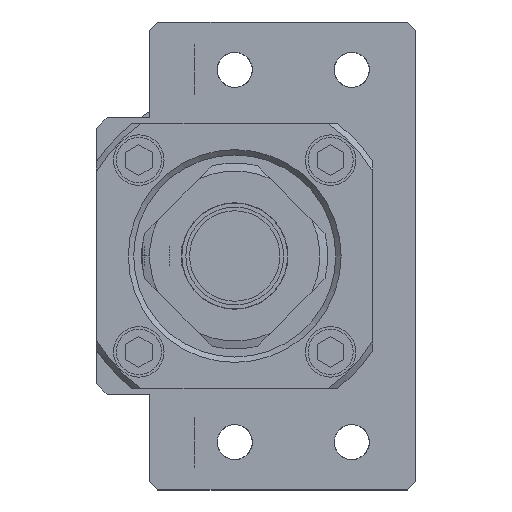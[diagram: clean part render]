
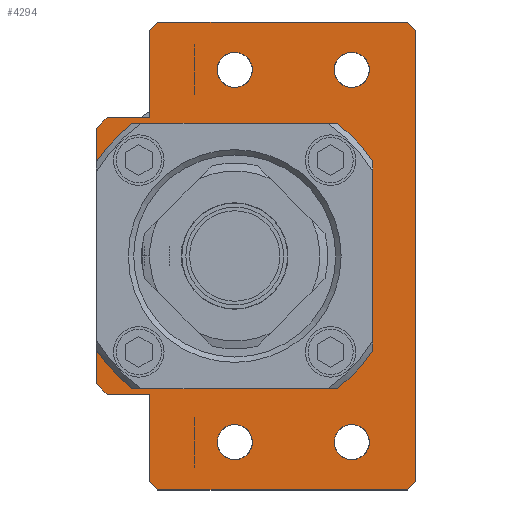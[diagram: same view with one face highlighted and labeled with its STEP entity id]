
A CAD part, left-side view. The second image highlights one B-rep face of the part: STEP entity #4294.
In plain terms, the highlighted planar face has unit normal (-1, 0, 0) as drawn and (0, 0, 1) by its records, which use the part's own axes.
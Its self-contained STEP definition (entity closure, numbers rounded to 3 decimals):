
#230=FACE_BOUND('',#814,.T.);
#231=FACE_BOUND('',#815,.T.);
#232=FACE_BOUND('',#816,.T.);
#233=FACE_BOUND('',#817,.T.);
#234=FACE_BOUND('',#818,.T.);
#363=PLANE('',#4718);
#531=FACE_OUTER_BOUND('',#813,.T.);
#813=EDGE_LOOP('',(#3326,#3327,#3328,#3329,#3330,#3331,#3332,#3333,#3334,
#3335,#3336,#3337,#3338,#3339));
#814=EDGE_LOOP('',(#3340));
#815=EDGE_LOOP('',(#3341));
#816=EDGE_LOOP('',(#3342));
#817=EDGE_LOOP('',(#3343));
#818=EDGE_LOOP('',(#3344,#3345,#3346,#3347,#3348,#3349,#3350,#3351));
#1065=LINE('',#6987,#1386);
#1129=LINE('',#7358,#1450);
#1132=LINE('',#7363,#1453);
#1134=LINE('',#7367,#1455);
#1136=LINE('',#7371,#1457);
#1138=LINE('',#7375,#1459);
#1140=LINE('',#7379,#1461);
#1142=LINE('',#7384,#1463);
#1145=LINE('',#7389,#1466);
#1147=LINE('',#7392,#1468);
#1148=LINE('',#7395,#1469);
#1150=LINE('',#7399,#1471);
#1152=LINE('',#7402,#1473);
#1153=LINE('',#7403,#1474);
#1154=LINE('',#7408,#1475);
#1155=LINE('',#7412,#1476);
#1156=LINE('',#7416,#1477);
#1157=LINE('',#7419,#1478);
#1386=VECTOR('',#5146,1000.);
#1450=VECTOR('',#5386,1000.);
#1453=VECTOR('',#5391,1000.);
#1455=VECTOR('',#5395,1000.);
#1457=VECTOR('',#5399,1000.);
#1459=VECTOR('',#5403,1000.);
#1461=VECTOR('',#5407,1000.);
#1463=VECTOR('',#5411,1000.);
#1466=VECTOR('',#5416,1000.);
#1468=VECTOR('',#5420,1000.);
#1469=VECTOR('',#5423,1000.);
#1471=VECTOR('',#5427,1000.);
#1473=VECTOR('',#5431,1000.);
#1474=VECTOR('',#5432,1000.);
#1475=VECTOR('',#5435,1000.);
#1476=VECTOR('',#5438,1000.);
#1477=VECTOR('',#5441,1000.);
#1478=VECTOR('',#5444,1000.);
#1701=CIRCLE('',#4601,3.3);
#1703=CIRCLE('',#4606,3.3);
#1705=CIRCLE('',#4611,3.3);
#1707=CIRCLE('',#4616,3.3);
#1762=CIRCLE('',#4719,30.5);
#1763=CIRCLE('',#4720,30.5);
#1764=CIRCLE('',#4721,30.5);
#1765=CIRCLE('',#4722,30.5);
#1891=VERTEX_POINT('',#6373);
#1905=VERTEX_POINT('',#6547);
#1919=VERTEX_POINT('',#6721);
#1933=VERTEX_POINT('',#6895);
#1941=VERTEX_POINT('',#6985);
#1942=VERTEX_POINT('',#6986);
#2044=VERTEX_POINT('',#7356);
#2045=VERTEX_POINT('',#7357);
#2046=VERTEX_POINT('',#7362);
#2047=VERTEX_POINT('',#7366);
#2048=VERTEX_POINT('',#7370);
#2049=VERTEX_POINT('',#7374);
#2050=VERTEX_POINT('',#7378);
#2051=VERTEX_POINT('',#7382);
#2052=VERTEX_POINT('',#7383);
#2053=VERTEX_POINT('',#7388);
#2054=VERTEX_POINT('',#7394);
#2055=VERTEX_POINT('',#7398);
#2056=VERTEX_POINT('',#7404);
#2057=VERTEX_POINT('',#7405);
#2058=VERTEX_POINT('',#7407);
#2059=VERTEX_POINT('',#7409);
#2060=VERTEX_POINT('',#7411);
#2061=VERTEX_POINT('',#7413);
#2062=VERTEX_POINT('',#7415);
#2063=VERTEX_POINT('',#7417);
#2315=EDGE_CURVE('',#1891,#1891,#1701,.T.);
#2332=EDGE_CURVE('',#1905,#1905,#1703,.T.);
#2349=EDGE_CURVE('',#1919,#1919,#1705,.T.);
#2366=EDGE_CURVE('',#1933,#1933,#1707,.T.);
#2376=EDGE_CURVE('',#1941,#1942,#1065,.T.);
#2519=EDGE_CURVE('',#2044,#2045,#1129,.T.);
#2522=EDGE_CURVE('',#2045,#2046,#1132,.T.);
#2524=EDGE_CURVE('',#2046,#2047,#1134,.T.);
#2526=EDGE_CURVE('',#2047,#2048,#1136,.T.);
#2528=EDGE_CURVE('',#2048,#2049,#1138,.T.);
#2530=EDGE_CURVE('',#2049,#2050,#1140,.T.);
#2532=EDGE_CURVE('',#2051,#2052,#1142,.T.);
#2535=EDGE_CURVE('',#2052,#2053,#1145,.T.);
#2537=EDGE_CURVE('',#2053,#2044,#1147,.T.);
#2538=EDGE_CURVE('',#2050,#2054,#1148,.T.);
#2540=EDGE_CURVE('',#2055,#2051,#1150,.T.);
#2542=EDGE_CURVE('',#1941,#2055,#1152,.T.);
#2543=EDGE_CURVE('',#2054,#1942,#1153,.T.);
#2544=EDGE_CURVE('',#2056,#2057,#1762,.T.);
#2545=EDGE_CURVE('',#2058,#2057,#1154,.T.);
#2546=EDGE_CURVE('',#2058,#2059,#1763,.T.);
#2547=EDGE_CURVE('',#2060,#2059,#1155,.T.);
#2548=EDGE_CURVE('',#2060,#2061,#1764,.T.);
#2549=EDGE_CURVE('',#2062,#2061,#1156,.T.);
#2550=EDGE_CURVE('',#2062,#2063,#1765,.T.);
#2551=EDGE_CURVE('',#2056,#2063,#1157,.T.);
#3326=ORIENTED_EDGE('',*,*,#2542,.T.);
#3327=ORIENTED_EDGE('',*,*,#2540,.T.);
#3328=ORIENTED_EDGE('',*,*,#2532,.T.);
#3329=ORIENTED_EDGE('',*,*,#2535,.T.);
#3330=ORIENTED_EDGE('',*,*,#2537,.T.);
#3331=ORIENTED_EDGE('',*,*,#2519,.T.);
#3332=ORIENTED_EDGE('',*,*,#2522,.T.);
#3333=ORIENTED_EDGE('',*,*,#2524,.T.);
#3334=ORIENTED_EDGE('',*,*,#2526,.T.);
#3335=ORIENTED_EDGE('',*,*,#2528,.T.);
#3336=ORIENTED_EDGE('',*,*,#2530,.T.);
#3337=ORIENTED_EDGE('',*,*,#2538,.T.);
#3338=ORIENTED_EDGE('',*,*,#2543,.T.);
#3339=ORIENTED_EDGE('',*,*,#2376,.F.);
#3340=ORIENTED_EDGE('',*,*,#2315,.T.);
#3341=ORIENTED_EDGE('',*,*,#2332,.T.);
#3342=ORIENTED_EDGE('',*,*,#2349,.T.);
#3343=ORIENTED_EDGE('',*,*,#2366,.T.);
#3344=ORIENTED_EDGE('',*,*,#2544,.T.);
#3345=ORIENTED_EDGE('',*,*,#2545,.F.);
#3346=ORIENTED_EDGE('',*,*,#2546,.T.);
#3347=ORIENTED_EDGE('',*,*,#2547,.F.);
#3348=ORIENTED_EDGE('',*,*,#2548,.T.);
#3349=ORIENTED_EDGE('',*,*,#2549,.F.);
#3350=ORIENTED_EDGE('',*,*,#2550,.T.);
#3351=ORIENTED_EDGE('',*,*,#2551,.F.);
#4294=ADVANCED_FACE('',(#531,#230,#231,#232,#233,#234),#363,.T.);
#4601=AXIS2_PLACEMENT_3D('',#6374,#5097,#5098);
#4606=AXIS2_PLACEMENT_3D('',#6548,#5110,#5111);
#4611=AXIS2_PLACEMENT_3D('',#6722,#5123,#5124);
#4616=AXIS2_PLACEMENT_3D('',#6896,#5136,#5137);
#4718=AXIS2_PLACEMENT_3D('',#7401,#5429,#5430);
#4719=AXIS2_PLACEMENT_3D('',#7406,#5433,#5434);
#4720=AXIS2_PLACEMENT_3D('',#7410,#5436,#5437);
#4721=AXIS2_PLACEMENT_3D('',#7414,#5439,#5440);
#4722=AXIS2_PLACEMENT_3D('',#7418,#5442,#5443);
#5097=DIRECTION('center_axis',(0.,0.,-1.));
#5098=DIRECTION('ref_axis',(1.,0.,0.));
#5110=DIRECTION('center_axis',(0.,0.,-1.));
#5111=DIRECTION('ref_axis',(1.,0.,0.));
#5123=DIRECTION('center_axis',(0.,0.,-1.));
#5124=DIRECTION('ref_axis',(1.,0.,0.));
#5136=DIRECTION('center_axis',(0.,0.,-1.));
#5137=DIRECTION('ref_axis',(1.,0.,0.));
#5146=DIRECTION('',(1.,0.,0.));
#5386=DIRECTION('',(0.707,-0.707,0.));
#5391=DIRECTION('',(1.,0.,0.));
#5395=DIRECTION('',(0.707,0.707,0.));
#5399=DIRECTION('',(0.,1.,0.));
#5403=DIRECTION('',(-0.707,0.707,0.));
#5407=DIRECTION('',(-1.,0.,0.));
#5411=DIRECTION('',(-1.,0.,0.));
#5416=DIRECTION('',(-0.707,-0.707,0.));
#5420=DIRECTION('',(0.,-1.,0.));
#5423=DIRECTION('',(0.,1.,0.));
#5427=DIRECTION('',(0.,-1.,0.));
#5429=DIRECTION('center_axis',(0.,0.,1.));
#5430=DIRECTION('ref_axis',(1.,0.,0.));
#5431=DIRECTION('',(-0.707,-0.707,0.));
#5432=DIRECTION('',(-0.707,0.707,0.));
#5433=DIRECTION('center_axis',(0.,0.,-1.));
#5434=DIRECTION('ref_axis',(-1.,0.,0.));
#5435=DIRECTION('',(-1.,0.,0.));
#5436=DIRECTION('center_axis',(0.,0.,-1.));
#5437=DIRECTION('ref_axis',(-1.,0.,0.));
#5438=DIRECTION('',(0.,1.,0.));
#5439=DIRECTION('center_axis',(0.,0.,-1.));
#5440=DIRECTION('ref_axis',(-1.,0.,0.));
#5441=DIRECTION('',(1.,0.,0.));
#5442=DIRECTION('center_axis',(0.,0.,-1.));
#5443=DIRECTION('ref_axis',(-1.,0.,0.));
#5444=DIRECTION('',(0.,-1.,0.));
#6373=CARTESIAN_POINT('',(-38.3,0.,0.));
#6374=CARTESIAN_POINT('Origin',(-35.,0.,0.));
#6547=CARTESIAN_POINT('',(31.7,0.,0.));
#6548=CARTESIAN_POINT('Origin',(35.,0.,0.));
#6721=CARTESIAN_POINT('',(-38.3,-22.,0.));
#6722=CARTESIAN_POINT('Origin',(-35.,-22.,0.));
#6895=CARTESIAN_POINT('',(31.7,-22.,0.));
#6896=CARTESIAN_POINT('Origin',(35.,-22.,0.));
#6985=CARTESIAN_POINT('',(-24.,26.,0.));
#6986=CARTESIAN_POINT('',(24.,26.,0.));
#6987=CARTESIAN_POINT('',(24.,26.,0.));
#7356=CARTESIAN_POINT('',(-44.,-32.44,0.));
#7357=CARTESIAN_POINT('',(-42.44,-34.,0.));
#7358=CARTESIAN_POINT('',(-44.,-32.44,0.));
#7362=CARTESIAN_POINT('',(42.44,-34.,0.));
#7363=CARTESIAN_POINT('',(-42.44,-34.,0.));
#7366=CARTESIAN_POINT('',(44.,-32.44,0.));
#7367=CARTESIAN_POINT('',(42.44,-34.,0.));
#7370=CARTESIAN_POINT('',(44.,14.44,0.));
#7371=CARTESIAN_POINT('',(44.,-32.44,0.));
#7374=CARTESIAN_POINT('',(42.44,16.,0.));
#7375=CARTESIAN_POINT('',(44.,14.44,0.));
#7378=CARTESIAN_POINT('',(26.,16.,0.));
#7379=CARTESIAN_POINT('',(42.44,16.,0.));
#7382=CARTESIAN_POINT('',(-26.,16.,0.));
#7383=CARTESIAN_POINT('',(-42.44,16.,0.));
#7384=CARTESIAN_POINT('',(-26.,16.,0.));
#7388=CARTESIAN_POINT('',(-44.,14.44,0.));
#7389=CARTESIAN_POINT('',(-42.44,16.,0.));
#7392=CARTESIAN_POINT('',(-44.,14.44,0.));
#7394=CARTESIAN_POINT('',(26.,24.,0.));
#7395=CARTESIAN_POINT('',(26.,16.,0.));
#7398=CARTESIAN_POINT('',(-26.,24.,0.));
#7399=CARTESIAN_POINT('',(-26.,24.,0.));
#7401=CARTESIAN_POINT('Origin',(0.,0.,0.));
#7402=CARTESIAN_POINT('',(-24.,26.,0.));
#7403=CARTESIAN_POINT('',(26.,24.,0.));
#7404=CARTESIAN_POINT('',(-24.98,17.5,0.));
#7405=CARTESIAN_POINT('',(-15.978,25.98,0.));
#7406=CARTESIAN_POINT('Origin',(0.,0.,0.));
#7407=CARTESIAN_POINT('',(15.978,25.98,0.));
#7408=CARTESIAN_POINT('',(24.98,25.98,0.));
#7409=CARTESIAN_POINT('',(24.98,17.5,0.));
#7410=CARTESIAN_POINT('Origin',(0.,0.,0.));
#7411=CARTESIAN_POINT('',(24.98,-17.5,0.));
#7412=CARTESIAN_POINT('',(24.98,-25.98,0.));
#7413=CARTESIAN_POINT('',(15.978,-25.98,0.));
#7414=CARTESIAN_POINT('Origin',(0.,0.,0.));
#7415=CARTESIAN_POINT('',(-15.978,-25.98,0.));
#7416=CARTESIAN_POINT('',(-24.98,-25.98,0.));
#7417=CARTESIAN_POINT('',(-24.98,-17.5,0.));
#7418=CARTESIAN_POINT('Origin',(0.,0.,0.));
#7419=CARTESIAN_POINT('',(-24.98,25.98,0.));
